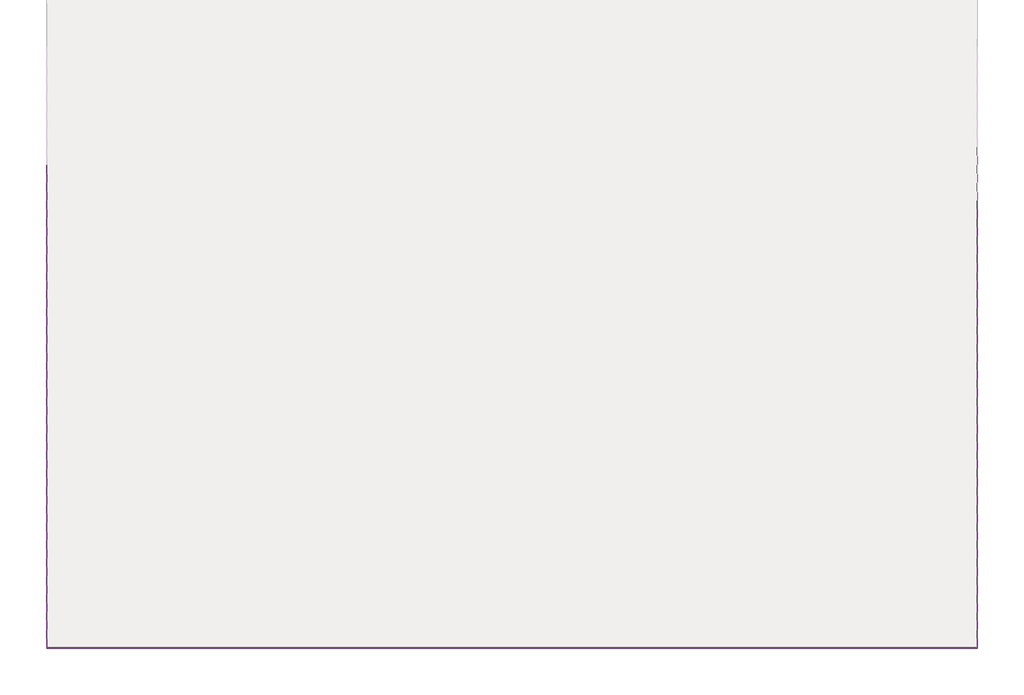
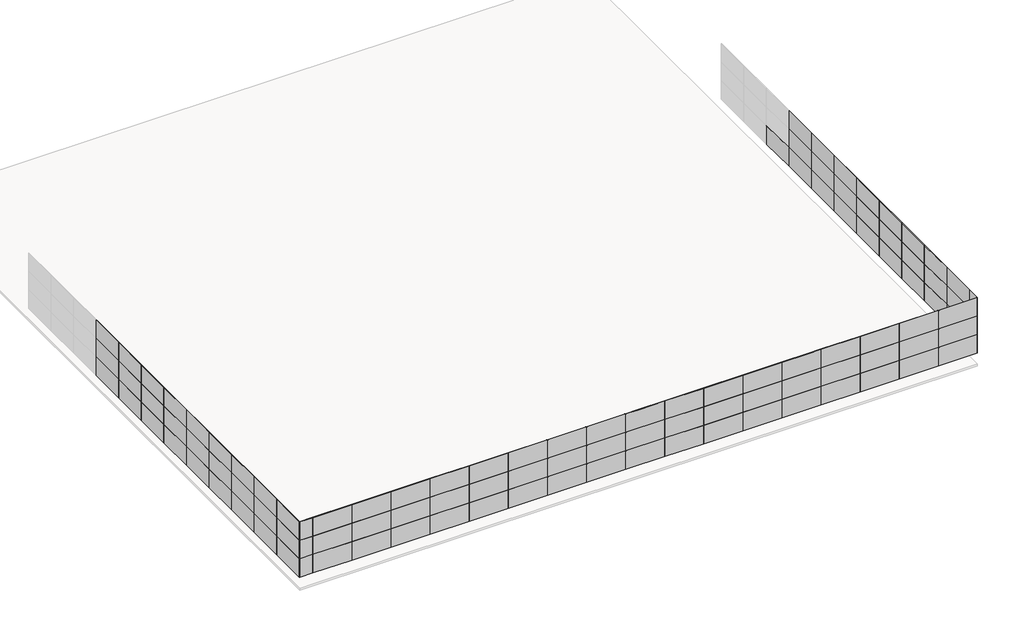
# One storey, part 1 of 2: 109 plates.
"""IFC4 building model written with IfcOpenShell, lengths in millimetres."""

from ifc_helpers import new_model, si_unit, origin, place, context, project, spatial, transform, mapped, element, save
from components import plate_b491c4e8, plate_da1865bf, plate_41d8d65b, plate_87ba7e3f

model = new_model("IFC4")

# Units and contexts
model_context = context("Model", 3, world=origin())
ifc_project = project(units=[si_unit("LENGTHUNIT", "METRE", prefix="MILLI")], contexts=[model_context])

# Site, building, storey
site = spatial("IfcSite", under=ifc_project)
building = spatial("IfcBuilding", under=site)
storey = spatial("IfcBuildingStorey", under=building, Name="标高 3", Elevation=9600.0)

# Plates
placement = place(None, origin())
plate_shape = plate_b491c4e8(model_context)
element("IfcPlate", 1, ObjectType="系统嵌板 : 玻璃", at=placement, inside=storey, context=model_context, shape_type="MappedRepresentation", body=[
    mapped(plate_shape, transform((30694.7947586, -748.6313563, 10500.0), x_axis=(0.0, -1.0, 0.0), y_axis=(1.0, 0.0, 0.0), z_axis=(0.0, 0.0, 1.0))),
])
element("IfcPlate", 2, ObjectType="系统嵌板 : 玻璃", at=placement, inside=storey, context=model_context, shape_type="MappedRepresentation", body=[
    mapped(plate_shape, transform((30694.7947586, -3748.6313563, 10500.0), x_axis=(0.0, -1.0, 0.0), y_axis=(1.0, 0.0, 0.0), z_axis=(0.0, 0.0, 1.0))),
])
element("IfcPlate", 3, ObjectType="系统嵌板 : 玻璃", at=placement, inside=storey, context=model_context, shape_type="MappedRepresentation", body=[
    mapped(plate_shape, transform((30694.7947586, -6748.6313563, 10500.0), x_axis=(0.0, -1.0, 0.0), y_axis=(1.0, 0.0, 0.0), z_axis=(0.0, 0.0, 1.0))),
])
element("IfcPlate", 4, ObjectType="系统嵌板 : 玻璃", at=placement, inside=storey, context=model_context, shape_type="MappedRepresentation", body=[
    mapped(plate_shape, transform((30694.7947586, -9748.6313563, 10500.0), x_axis=(0.0, -1.0, 0.0), y_axis=(1.0, 0.0, 0.0), z_axis=(0.0, 0.0, 1.0))),
])
element("IfcPlate", 5, ObjectType="系统嵌板 : 玻璃", at=placement, inside=storey, context=model_context, shape_type="MappedRepresentation", body=[
    mapped(plate_shape, transform((30694.7947586, -12748.6313563, 10500.0), x_axis=(0.0, -1.0, 0.0), y_axis=(1.0, 0.0, 0.0), z_axis=(0.0, 0.0, 1.0))),
])
element("IfcPlate", 6, ObjectType="系统嵌板 : 玻璃", at=placement, inside=storey, context=model_context, shape_type="MappedRepresentation", body=[
    mapped(plate_shape, transform((30694.7947586, -15748.6313563, 10500.0), x_axis=(0.0, -1.0, 0.0), y_axis=(1.0, 0.0, 0.0), z_axis=(0.0, 0.0, 1.0))),
])
element("IfcPlate", 7, ObjectType="系统嵌板 : 玻璃", at=placement, inside=storey, context=model_context, shape_type="MappedRepresentation", body=[
    mapped(plate_shape, transform((30694.7947586, -18748.6313563, 10500.0), x_axis=(0.0, -1.0, 0.0), y_axis=(1.0, 0.0, 0.0), z_axis=(0.0, 0.0, 1.0))),
])
element("IfcPlate", 8, ObjectType="系统嵌板 : 玻璃", at=placement, inside=storey, context=model_context, shape_type="MappedRepresentation", body=[
    mapped(plate_shape, transform((30694.7947586, -21748.6313563, 10500.0), x_axis=(0.0, -1.0, 0.0), y_axis=(1.0, 0.0, 0.0), z_axis=(0.0, 0.0, 1.0))),
])
element("IfcPlate", 9, ObjectType="系统嵌板 : 玻璃", at=placement, inside=storey, context=model_context, shape_type="MappedRepresentation", body=[
    mapped(plate_shape, transform((30694.7947586, -24748.6313563, 10500.0), x_axis=(0.0, -1.0, 0.0), y_axis=(1.0, 0.0, 0.0), z_axis=(0.0, 0.0, 1.0))),
])
element("IfcPlate", 10, ObjectType="系统嵌板 : 玻璃", at=placement, inside=storey, context=model_context, shape_type="MappedRepresentation", body=[
    mapped(plate_shape, transform((30694.7947586, -3748.6313563, 12000.0), x_axis=(0.0, -1.0, 0.0), y_axis=(1.0, 0.0, 0.0), z_axis=(0.0, 0.0, 1.0))),
])
element("IfcPlate", 11, ObjectType="系统嵌板 : 玻璃", at=placement, inside=storey, context=model_context, shape_type="MappedRepresentation", body=[
    mapped(plate_shape, transform((30694.7947586, -6748.6313563, 12000.0), x_axis=(0.0, -1.0, 0.0), y_axis=(1.0, 0.0, 0.0), z_axis=(0.0, 0.0, 1.0))),
])
element("IfcPlate", 12, ObjectType="系统嵌板 : 玻璃", at=placement, inside=storey, context=model_context, shape_type="MappedRepresentation", body=[
    mapped(plate_shape, transform((30694.7947586, -9748.6313563, 12000.0), x_axis=(0.0, -1.0, 0.0), y_axis=(1.0, 0.0, 0.0), z_axis=(0.0, 0.0, 1.0))),
])
element("IfcPlate", 13, ObjectType="系统嵌板 : 玻璃", at=placement, inside=storey, context=model_context, shape_type="MappedRepresentation", body=[
    mapped(plate_shape, transform((30694.7947586, -12748.6313563, 12000.0), x_axis=(0.0, -1.0, 0.0), y_axis=(1.0, 0.0, 0.0), z_axis=(0.0, 0.0, 1.0))),
])
element("IfcPlate", 14, ObjectType="系统嵌板 : 玻璃", at=placement, inside=storey, context=model_context, shape_type="MappedRepresentation", body=[
    mapped(plate_shape, transform((30694.7947586, -15748.6313563, 12000.0), x_axis=(0.0, -1.0, 0.0), y_axis=(1.0, 0.0, 0.0), z_axis=(0.0, 0.0, 1.0))),
])
element("IfcPlate", 15, ObjectType="系统嵌板 : 玻璃", at=placement, inside=storey, context=model_context, shape_type="MappedRepresentation", body=[
    mapped(plate_shape, transform((30694.7947586, -18748.6313563, 12000.0), x_axis=(0.0, -1.0, 0.0), y_axis=(1.0, 0.0, 0.0), z_axis=(0.0, 0.0, 1.0))),
])
element("IfcPlate", 16, ObjectType="系统嵌板 : 玻璃", at=placement, inside=storey, context=model_context, shape_type="MappedRepresentation", body=[
    mapped(plate_shape, transform((30694.7947586, -21748.6313563, 12000.0), x_axis=(0.0, -1.0, 0.0), y_axis=(1.0, 0.0, 0.0), z_axis=(0.0, 0.0, 1.0))),
])
element("IfcPlate", 17, ObjectType="系统嵌板 : 玻璃", at=placement, inside=storey, context=model_context, shape_type="MappedRepresentation", body=[
    mapped(plate_shape, transform((30694.7947586, -24748.6313563, 12000.0), x_axis=(0.0, -1.0, 0.0), y_axis=(1.0, 0.0, 0.0), z_axis=(0.0, 0.0, 1.0))),
])
element("IfcPlate", 18, ObjectType="系统嵌板 : 玻璃", at=placement, inside=storey, context=model_context, shape_type="MappedRepresentation", body=[
    mapped(plate_shape, transform((30694.7947586, -3748.6313563, 13500.0), x_axis=(0.0, -1.0, 0.0), y_axis=(1.0, 0.0, 0.0), z_axis=(0.0, 0.0, 1.0))),
])
element("IfcPlate", 19, ObjectType="系统嵌板 : 玻璃", at=placement, inside=storey, context=model_context, shape_type="MappedRepresentation", body=[
    mapped(plate_shape, transform((30694.7947586, -6748.6313563, 13500.0), x_axis=(0.0, -1.0, 0.0), y_axis=(1.0, 0.0, 0.0), z_axis=(0.0, 0.0, 1.0))),
])
element("IfcPlate", 20, ObjectType="系统嵌板 : 玻璃", at=placement, inside=storey, context=model_context, shape_type="MappedRepresentation", body=[
    mapped(plate_shape, transform((30694.7947586, -9748.6313563, 13500.0), x_axis=(0.0, -1.0, 0.0), y_axis=(1.0, 0.0, 0.0), z_axis=(0.0, 0.0, 1.0))),
])
element("IfcPlate", 21, ObjectType="系统嵌板 : 玻璃", at=placement, inside=storey, context=model_context, shape_type="MappedRepresentation", body=[
    mapped(plate_shape, transform((30694.7947586, -12748.6313563, 13500.0), x_axis=(0.0, -1.0, 0.0), y_axis=(1.0, 0.0, 0.0), z_axis=(0.0, 0.0, 1.0))),
])
element("IfcPlate", 22, ObjectType="系统嵌板 : 玻璃", at=placement, inside=storey, context=model_context, shape_type="MappedRepresentation", body=[
    mapped(plate_shape, transform((30694.7947586, -15748.6313563, 13500.0), x_axis=(0.0, -1.0, 0.0), y_axis=(1.0, 0.0, 0.0), z_axis=(0.0, 0.0, 1.0))),
])
element("IfcPlate", 23, ObjectType="系统嵌板 : 玻璃", at=placement, inside=storey, context=model_context, shape_type="MappedRepresentation", body=[
    mapped(plate_shape, transform((30694.7947586, -18748.6313563, 13500.0), x_axis=(0.0, -1.0, 0.0), y_axis=(1.0, 0.0, 0.0), z_axis=(0.0, 0.0, 1.0))),
])
element("IfcPlate", 24, ObjectType="系统嵌板 : 玻璃", at=placement, inside=storey, context=model_context, shape_type="MappedRepresentation", body=[
    mapped(plate_shape, transform((30694.7947586, -21748.6313563, 13500.0), x_axis=(0.0, -1.0, 0.0), y_axis=(1.0, 0.0, 0.0), z_axis=(0.0, 0.0, 1.0))),
])
element("IfcPlate", 25, ObjectType="系统嵌板 : 玻璃", at=placement, inside=storey, context=model_context, shape_type="MappedRepresentation", body=[
    mapped(plate_shape, transform((30694.7947586, -24748.6313563, 13500.0), x_axis=(0.0, -1.0, 0.0), y_axis=(1.0, 0.0, 0.0), z_axis=(0.0, 0.0, 1.0))),
])
element("IfcPlate", 26, ObjectType="系统嵌板 : 玻璃", at=placement, inside=storey, context=model_context, shape_type="MappedRepresentation", body=[
    mapped(plate_shape, transform((-21305.2052414, -25748.6313563, 10500.0), x_axis=(0.0, 1.0, 0.0), y_axis=(-1.0, 0.0, 0.0), z_axis=(0.0, 0.0, 1.0))),
])
element("IfcPlate", 27, ObjectType="系统嵌板 : 玻璃", at=placement, inside=storey, context=model_context, shape_type="MappedRepresentation", body=[
    mapped(plate_shape, transform((-21305.2052414, -22748.6313563, 10500.0), x_axis=(0.0, 1.0, 0.0), y_axis=(-1.0, 0.0, 0.0), z_axis=(0.0, 0.0, 1.0))),
])
element("IfcPlate", 28, ObjectType="系统嵌板 : 玻璃", at=placement, inside=storey, context=model_context, shape_type="MappedRepresentation", body=[
    mapped(plate_shape, transform((-21305.2052414, -19748.6313563, 10500.0), x_axis=(0.0, 1.0, 0.0), y_axis=(-1.0, 0.0, 0.0), z_axis=(0.0, 0.0, 1.0))),
])
element("IfcPlate", 29, ObjectType="系统嵌板 : 玻璃", at=placement, inside=storey, context=model_context, shape_type="MappedRepresentation", body=[
    mapped(plate_shape, transform((-21305.2052414, -16748.6313563, 10500.0), x_axis=(0.0, 1.0, 0.0), y_axis=(-1.0, 0.0, 0.0), z_axis=(0.0, 0.0, 1.0))),
])
element("IfcPlate", 30, ObjectType="系统嵌板 : 玻璃", at=placement, inside=storey, context=model_context, shape_type="MappedRepresentation", body=[
    mapped(plate_shape, transform((-21305.2052414, -13748.6313563, 10500.0), x_axis=(0.0, 1.0, 0.0), y_axis=(-1.0, 0.0, 0.0), z_axis=(0.0, 0.0, 1.0))),
])
element("IfcPlate", 31, ObjectType="系统嵌板 : 玻璃", at=placement, inside=storey, context=model_context, shape_type="MappedRepresentation", body=[
    mapped(plate_shape, transform((-21305.2052414, -10748.6313563, 10500.0), x_axis=(0.0, 1.0, 0.0), y_axis=(-1.0, 0.0, 0.0), z_axis=(0.0, 0.0, 1.0))),
])
element("IfcPlate", 32, ObjectType="系统嵌板 : 玻璃", at=placement, inside=storey, context=model_context, shape_type="MappedRepresentation", body=[
    mapped(plate_shape, transform((-21305.2052414, -7748.6313563, 10500.0), x_axis=(0.0, 1.0, 0.0), y_axis=(-1.0, 0.0, 0.0), z_axis=(0.0, 0.0, 1.0))),
])
element("IfcPlate", 33, ObjectType="系统嵌板 : 玻璃", at=placement, inside=storey, context=model_context, shape_type="MappedRepresentation", body=[
    mapped(plate_shape, transform((-21305.2052414, -4748.6313563, 10500.0), x_axis=(0.0, 1.0, 0.0), y_axis=(-1.0, 0.0, 0.0), z_axis=(0.0, 0.0, 1.0))),
])
element("IfcPlate", 34, ObjectType="系统嵌板 : 玻璃", at=placement, inside=storey, context=model_context, shape_type="MappedRepresentation", body=[
    mapped(plate_shape, transform((-21305.2052414, -1748.6313563, 10500.0), x_axis=(0.0, 1.0, 0.0), y_axis=(-1.0, 0.0, 0.0), z_axis=(0.0, 0.0, 1.0))),
])
element("IfcPlate", 35, ObjectType="系统嵌板 : 玻璃", at=placement, inside=storey, context=model_context, shape_type="MappedRepresentation", body=[
    mapped(plate_shape, transform((-21305.2052414, -25748.6313563, 12000.0), x_axis=(0.0, 1.0, 0.0), y_axis=(-1.0, 0.0, 0.0), z_axis=(0.0, 0.0, 1.0))),
])
element("IfcPlate", 36, ObjectType="系统嵌板 : 玻璃", at=placement, inside=storey, context=model_context, shape_type="MappedRepresentation", body=[
    mapped(plate_shape, transform((-21305.2052414, -22748.6313563, 12000.0), x_axis=(0.0, 1.0, 0.0), y_axis=(-1.0, 0.0, 0.0), z_axis=(0.0, 0.0, 1.0))),
])
element("IfcPlate", 37, ObjectType="系统嵌板 : 玻璃", at=placement, inside=storey, context=model_context, shape_type="MappedRepresentation", body=[
    mapped(plate_shape, transform((-21305.2052414, -19748.6313563, 12000.0), x_axis=(0.0, 1.0, 0.0), y_axis=(-1.0, 0.0, 0.0), z_axis=(0.0, 0.0, 1.0))),
])
element("IfcPlate", 38, ObjectType="系统嵌板 : 玻璃", at=placement, inside=storey, context=model_context, shape_type="MappedRepresentation", body=[
    mapped(plate_shape, transform((-21305.2052414, -16748.6313563, 12000.0), x_axis=(0.0, 1.0, 0.0), y_axis=(-1.0, 0.0, 0.0), z_axis=(0.0, 0.0, 1.0))),
])
element("IfcPlate", 39, ObjectType="系统嵌板 : 玻璃", at=placement, inside=storey, context=model_context, shape_type="MappedRepresentation", body=[
    mapped(plate_shape, transform((-21305.2052414, -13748.6313563, 12000.0), x_axis=(0.0, 1.0, 0.0), y_axis=(-1.0, 0.0, 0.0), z_axis=(0.0, 0.0, 1.0))),
])
element("IfcPlate", 40, ObjectType="系统嵌板 : 玻璃", at=placement, inside=storey, context=model_context, shape_type="MappedRepresentation", body=[
    mapped(plate_shape, transform((-21305.2052414, -10748.6313563, 12000.0), x_axis=(0.0, 1.0, 0.0), y_axis=(-1.0, 0.0, 0.0), z_axis=(0.0, 0.0, 1.0))),
])
element("IfcPlate", 41, ObjectType="系统嵌板 : 玻璃", at=placement, inside=storey, context=model_context, shape_type="MappedRepresentation", body=[
    mapped(plate_shape, transform((-21305.2052414, -7748.6313563, 12000.0), x_axis=(0.0, 1.0, 0.0), y_axis=(-1.0, 0.0, 0.0), z_axis=(0.0, 0.0, 1.0))),
])
element("IfcPlate", 42, ObjectType="系统嵌板 : 玻璃", at=placement, inside=storey, context=model_context, shape_type="MappedRepresentation", body=[
    mapped(plate_shape, transform((-21305.2052414, -4748.6313563, 12000.0), x_axis=(0.0, 1.0, 0.0), y_axis=(-1.0, 0.0, 0.0), z_axis=(0.0, 0.0, 1.0))),
])
element("IfcPlate", 43, ObjectType="系统嵌板 : 玻璃", at=placement, inside=storey, context=model_context, shape_type="MappedRepresentation", body=[
    mapped(plate_shape, transform((-21305.2052414, -1748.6313563, 12000.0), x_axis=(0.0, 1.0, 0.0), y_axis=(-1.0, 0.0, 0.0), z_axis=(0.0, 0.0, 1.0))),
])
element("IfcPlate", 44, ObjectType="系统嵌板 : 玻璃", at=placement, inside=storey, context=model_context, shape_type="MappedRepresentation", body=[
    mapped(plate_shape, transform((-21305.2052414, -25748.6313563, 13500.0), x_axis=(0.0, 1.0, 0.0), y_axis=(-1.0, 0.0, 0.0), z_axis=(0.0, 0.0, 1.0))),
])
element("IfcPlate", 45, ObjectType="系统嵌板 : 玻璃", at=placement, inside=storey, context=model_context, shape_type="MappedRepresentation", body=[
    mapped(plate_shape, transform((-21305.2052414, -22748.6313563, 13500.0), x_axis=(0.0, 1.0, 0.0), y_axis=(-1.0, 0.0, 0.0), z_axis=(0.0, 0.0, 1.0))),
])
element("IfcPlate", 46, ObjectType="系统嵌板 : 玻璃", at=placement, inside=storey, context=model_context, shape_type="MappedRepresentation", body=[
    mapped(plate_shape, transform((-21305.2052414, -19748.6313563, 13500.0), x_axis=(0.0, 1.0, 0.0), y_axis=(-1.0, 0.0, 0.0), z_axis=(0.0, 0.0, 1.0))),
])
element("IfcPlate", 47, ObjectType="系统嵌板 : 玻璃", at=placement, inside=storey, context=model_context, shape_type="MappedRepresentation", body=[
    mapped(plate_shape, transform((-21305.2052414, -16748.6313563, 13500.0), x_axis=(0.0, 1.0, 0.0), y_axis=(-1.0, 0.0, 0.0), z_axis=(0.0, 0.0, 1.0))),
])
element("IfcPlate", 48, ObjectType="系统嵌板 : 玻璃", at=placement, inside=storey, context=model_context, shape_type="MappedRepresentation", body=[
    mapped(plate_shape, transform((-21305.2052414, -10748.6313563, 13500.0), x_axis=(0.0, 1.0, 0.0), y_axis=(-1.0, 0.0, 0.0), z_axis=(0.0, 0.0, 1.0))),
])
element("IfcPlate", 49, ObjectType="系统嵌板 : 玻璃", at=placement, inside=storey, context=model_context, shape_type="MappedRepresentation", body=[
    mapped(plate_shape, transform((-21305.2052414, -7748.6313563, 13500.0), x_axis=(0.0, 1.0, 0.0), y_axis=(-1.0, 0.0, 0.0), z_axis=(0.0, 0.0, 1.0))),
])
element("IfcPlate", 50, ObjectType="系统嵌板 : 玻璃", at=placement, inside=storey, context=model_context, shape_type="MappedRepresentation", body=[
    mapped(plate_shape, transform((-21305.2052414, -4748.6313563, 13500.0), x_axis=(0.0, 1.0, 0.0), y_axis=(-1.0, 0.0, 0.0), z_axis=(0.0, 0.0, 1.0))),
])
element("IfcPlate", 51, ObjectType="系统嵌板 : 玻璃", at=placement, inside=storey, context=model_context, shape_type="MappedRepresentation", body=[
    mapped(plate_shape, transform((29194.7947586, -27248.6313563, 10500.0), x_axis=(-1.0, 0.0, 0.0), y_axis=(0.0, -1.0, 0.0), z_axis=(0.0, 0.0, 1.0))),
])
element("IfcPlate", 52, ObjectType="系统嵌板 : 玻璃", at=placement, inside=storey, context=model_context, shape_type="MappedRepresentation", body=[
    mapped(plate_shape, transform((26194.7947586, -27248.6313563, 10500.0), x_axis=(-1.0, 0.0, 0.0), y_axis=(0.0, -1.0, 0.0), z_axis=(0.0, 0.0, 1.0))),
])
element("IfcPlate", 53, ObjectType="系统嵌板 : 玻璃", at=placement, inside=storey, context=model_context, shape_type="MappedRepresentation", body=[
    mapped(plate_shape, transform((23194.7947586, -27248.6313563, 10500.0), x_axis=(-1.0, 0.0, 0.0), y_axis=(0.0, -1.0, 0.0), z_axis=(0.0, 0.0, 1.0))),
])
element("IfcPlate", 54, ObjectType="系统嵌板 : 玻璃", at=placement, inside=storey, context=model_context, shape_type="MappedRepresentation", body=[
    mapped(plate_shape, transform((20194.7947586, -27248.6313563, 10500.0), x_axis=(-1.0, 0.0, 0.0), y_axis=(0.0, -1.0, 0.0), z_axis=(0.0, 0.0, 1.0))),
])
element("IfcPlate", 55, ObjectType="系统嵌板 : 玻璃", at=placement, inside=storey, context=model_context, shape_type="MappedRepresentation", body=[
    mapped(plate_shape, transform((17194.7947586, -27248.6313563, 10500.0), x_axis=(-1.0, 0.0, 0.0), y_axis=(0.0, -1.0, 0.0), z_axis=(0.0, 0.0, 1.0))),
])
element("IfcPlate", 56, ObjectType="系统嵌板 : 玻璃", at=placement, inside=storey, context=model_context, shape_type="MappedRepresentation", body=[
    mapped(plate_shape, transform((14194.7947586, -27248.6313563, 10500.0), x_axis=(-1.0, 0.0, 0.0), y_axis=(0.0, -1.0, 0.0), z_axis=(0.0, 0.0, 1.0))),
])
element("IfcPlate", 57, ObjectType="系统嵌板 : 玻璃", at=placement, inside=storey, context=model_context, shape_type="MappedRepresentation", body=[
    mapped(plate_shape, transform((11194.7947586, -27248.6313563, 10500.0), x_axis=(-1.0, 0.0, 0.0), y_axis=(0.0, -1.0, 0.0), z_axis=(0.0, 0.0, 1.0))),
])
element("IfcPlate", 58, ObjectType="系统嵌板 : 玻璃", at=placement, inside=storey, context=model_context, shape_type="MappedRepresentation", body=[
    mapped(plate_shape, transform((8194.7947586, -27248.6313563, 10500.0), x_axis=(-1.0, 0.0, 0.0), y_axis=(0.0, -1.0, 0.0), z_axis=(0.0, 0.0, 1.0))),
])
element("IfcPlate", 59, ObjectType="系统嵌板 : 玻璃", at=placement, inside=storey, context=model_context, shape_type="MappedRepresentation", body=[
    mapped(plate_shape, transform((5194.7947586, -27248.6313563, 10500.0), x_axis=(-1.0, 0.0, 0.0), y_axis=(0.0, -1.0, 0.0), z_axis=(0.0, 0.0, 1.0))),
])
element("IfcPlate", 60, ObjectType="系统嵌板 : 玻璃", at=placement, inside=storey, context=model_context, shape_type="MappedRepresentation", body=[
    mapped(plate_shape, transform((2194.7947586, -27248.6313563, 10500.0), x_axis=(-1.0, 0.0, 0.0), y_axis=(0.0, -1.0, 0.0), z_axis=(0.0, 0.0, 1.0))),
])
element("IfcPlate", 61, ObjectType="系统嵌板 : 玻璃", at=placement, inside=storey, context=model_context, shape_type="MappedRepresentation", body=[
    mapped(plate_shape, transform((-805.2052414, -27248.6313563, 10500.0), x_axis=(-1.0, 0.0, 0.0), y_axis=(0.0, -1.0, 0.0), z_axis=(0.0, 0.0, 1.0))),
])
element("IfcPlate", 62, ObjectType="系统嵌板 : 玻璃", at=placement, inside=storey, context=model_context, shape_type="MappedRepresentation", body=[
    mapped(plate_shape, transform((-3805.2052414, -27248.6313563, 10500.0), x_axis=(-1.0, 0.0, 0.0), y_axis=(0.0, -1.0, 0.0), z_axis=(0.0, 0.0, 1.0))),
])
element("IfcPlate", 63, ObjectType="系统嵌板 : 玻璃", at=placement, inside=storey, context=model_context, shape_type="MappedRepresentation", body=[
    mapped(plate_shape, transform((-6805.2052414, -27248.6313563, 10500.0), x_axis=(-1.0, 0.0, 0.0), y_axis=(0.0, -1.0, 0.0), z_axis=(0.0, 0.0, 1.0))),
])
element("IfcPlate", 64, ObjectType="系统嵌板 : 玻璃", at=placement, inside=storey, context=model_context, shape_type="MappedRepresentation", body=[
    mapped(plate_shape, transform((-9805.2052414, -27248.6313563, 10500.0), x_axis=(-1.0, 0.0, 0.0), y_axis=(0.0, -1.0, 0.0), z_axis=(0.0, 0.0, 1.0))),
])
element("IfcPlate", 65, ObjectType="系统嵌板 : 玻璃", at=placement, inside=storey, context=model_context, shape_type="MappedRepresentation", body=[
    mapped(plate_shape, transform((-12805.2052414, -27248.6313563, 10500.0), x_axis=(-1.0, 0.0, 0.0), y_axis=(0.0, -1.0, 0.0), z_axis=(0.0, 0.0, 1.0))),
])
element("IfcPlate", 66, ObjectType="系统嵌板 : 玻璃", at=placement, inside=storey, context=model_context, shape_type="MappedRepresentation", body=[
    mapped(plate_shape, transform((-15805.2052414, -27248.6313563, 10500.0), x_axis=(-1.0, 0.0, 0.0), y_axis=(0.0, -1.0, 0.0), z_axis=(0.0, 0.0, 1.0))),
])
element("IfcPlate", 67, ObjectType="系统嵌板 : 玻璃", at=placement, inside=storey, context=model_context, shape_type="MappedRepresentation", body=[
    mapped(plate_shape, transform((-18805.2052414, -27248.6313563, 10500.0), x_axis=(-1.0, 0.0, 0.0), y_axis=(0.0, -1.0, 0.0), z_axis=(0.0, 0.0, 1.0))),
])
element("IfcPlate", 68, ObjectType="系统嵌板 : 玻璃", at=placement, inside=storey, context=model_context, shape_type="MappedRepresentation", body=[
    mapped(plate_shape, transform((29194.7947586, -27248.6313563, 12000.0), x_axis=(-1.0, 0.0, 0.0), y_axis=(0.0, -1.0, 0.0), z_axis=(0.0, 0.0, 1.0))),
])
element("IfcPlate", 69, ObjectType="系统嵌板 : 玻璃", at=placement, inside=storey, context=model_context, shape_type="MappedRepresentation", body=[
    mapped(plate_shape, transform((26194.7947586, -27248.6313563, 12000.0), x_axis=(-1.0, 0.0, 0.0), y_axis=(0.0, -1.0, 0.0), z_axis=(0.0, 0.0, 1.0))),
])
element("IfcPlate", 70, ObjectType="系统嵌板 : 玻璃", at=placement, inside=storey, context=model_context, shape_type="MappedRepresentation", body=[
    mapped(plate_shape, transform((23194.7947586, -27248.6313563, 12000.0), x_axis=(-1.0, 0.0, 0.0), y_axis=(0.0, -1.0, 0.0), z_axis=(0.0, 0.0, 1.0))),
])
element("IfcPlate", 71, ObjectType="系统嵌板 : 玻璃", at=placement, inside=storey, context=model_context, shape_type="MappedRepresentation", body=[
    mapped(plate_shape, transform((20194.7947586, -27248.6313563, 12000.0), x_axis=(-1.0, 0.0, 0.0), y_axis=(0.0, -1.0, 0.0), z_axis=(0.0, 0.0, 1.0))),
])
element("IfcPlate", 72, ObjectType="系统嵌板 : 玻璃", at=placement, inside=storey, context=model_context, shape_type="MappedRepresentation", body=[
    mapped(plate_shape, transform((17194.7947586, -27248.6313563, 12000.0), x_axis=(-1.0, 0.0, 0.0), y_axis=(0.0, -1.0, 0.0), z_axis=(0.0, 0.0, 1.0))),
])
element("IfcPlate", 73, ObjectType="系统嵌板 : 玻璃", at=placement, inside=storey, context=model_context, shape_type="MappedRepresentation", body=[
    mapped(plate_shape, transform((14194.7947586, -27248.6313563, 12000.0), x_axis=(-1.0, 0.0, 0.0), y_axis=(0.0, -1.0, 0.0), z_axis=(0.0, 0.0, 1.0))),
])
element("IfcPlate", 74, ObjectType="系统嵌板 : 玻璃", at=placement, inside=storey, context=model_context, shape_type="MappedRepresentation", body=[
    mapped(plate_shape, transform((11194.7947586, -27248.6313563, 12000.0), x_axis=(-1.0, 0.0, 0.0), y_axis=(0.0, -1.0, 0.0), z_axis=(0.0, 0.0, 1.0))),
])
element("IfcPlate", 75, ObjectType="系统嵌板 : 玻璃", at=placement, inside=storey, context=model_context, shape_type="MappedRepresentation", body=[
    mapped(plate_shape, transform((8194.7947586, -27248.6313563, 12000.0), x_axis=(-1.0, 0.0, 0.0), y_axis=(0.0, -1.0, 0.0), z_axis=(0.0, 0.0, 1.0))),
])
element("IfcPlate", 76, ObjectType="系统嵌板 : 玻璃", at=placement, inside=storey, context=model_context, shape_type="MappedRepresentation", body=[
    mapped(plate_shape, transform((5194.7947586, -27248.6313563, 12000.0), x_axis=(-1.0, 0.0, 0.0), y_axis=(0.0, -1.0, 0.0), z_axis=(0.0, 0.0, 1.0))),
])
element("IfcPlate", 77, ObjectType="系统嵌板 : 玻璃", at=placement, inside=storey, context=model_context, shape_type="MappedRepresentation", body=[
    mapped(plate_shape, transform((2194.7947586, -27248.6313563, 12000.0), x_axis=(-1.0, 0.0, 0.0), y_axis=(0.0, -1.0, 0.0), z_axis=(0.0, 0.0, 1.0))),
])
element("IfcPlate", 78, ObjectType="系统嵌板 : 玻璃", at=placement, inside=storey, context=model_context, shape_type="MappedRepresentation", body=[
    mapped(plate_shape, transform((-805.2052414, -27248.6313563, 12000.0), x_axis=(-1.0, 0.0, 0.0), y_axis=(0.0, -1.0, 0.0), z_axis=(0.0, 0.0, 1.0))),
])
element("IfcPlate", 79, ObjectType="系统嵌板 : 玻璃", at=placement, inside=storey, context=model_context, shape_type="MappedRepresentation", body=[
    mapped(plate_shape, transform((-3805.2052414, -27248.6313563, 12000.0), x_axis=(-1.0, 0.0, 0.0), y_axis=(0.0, -1.0, 0.0), z_axis=(0.0, 0.0, 1.0))),
])
element("IfcPlate", 80, ObjectType="系统嵌板 : 玻璃", at=placement, inside=storey, context=model_context, shape_type="MappedRepresentation", body=[
    mapped(plate_shape, transform((-6805.2052414, -27248.6313563, 12000.0), x_axis=(-1.0, 0.0, 0.0), y_axis=(0.0, -1.0, 0.0), z_axis=(0.0, 0.0, 1.0))),
])
element("IfcPlate", 81, ObjectType="系统嵌板 : 玻璃", at=placement, inside=storey, context=model_context, shape_type="MappedRepresentation", body=[
    mapped(plate_shape, transform((-9805.2052414, -27248.6313563, 12000.0), x_axis=(-1.0, 0.0, 0.0), y_axis=(0.0, -1.0, 0.0), z_axis=(0.0, 0.0, 1.0))),
])
element("IfcPlate", 82, ObjectType="系统嵌板 : 玻璃", at=placement, inside=storey, context=model_context, shape_type="MappedRepresentation", body=[
    mapped(plate_shape, transform((-12805.2052414, -27248.6313563, 12000.0), x_axis=(-1.0, 0.0, 0.0), y_axis=(0.0, -1.0, 0.0), z_axis=(0.0, 0.0, 1.0))),
])
element("IfcPlate", 83, ObjectType="系统嵌板 : 玻璃", at=placement, inside=storey, context=model_context, shape_type="MappedRepresentation", body=[
    mapped(plate_shape, transform((-15805.2052414, -27248.6313563, 12000.0), x_axis=(-1.0, 0.0, 0.0), y_axis=(0.0, -1.0, 0.0), z_axis=(0.0, 0.0, 1.0))),
])
element("IfcPlate", 84, ObjectType="系统嵌板 : 玻璃", at=placement, inside=storey, context=model_context, shape_type="MappedRepresentation", body=[
    mapped(plate_shape, transform((-18805.2052414, -27248.6313563, 12000.0), x_axis=(-1.0, 0.0, 0.0), y_axis=(0.0, -1.0, 0.0), z_axis=(0.0, 0.0, 1.0))),
])
element("IfcPlate", 85, ObjectType="系统嵌板 : 玻璃", at=placement, inside=storey, context=model_context, shape_type="MappedRepresentation", body=[
    mapped(plate_shape, transform((29194.7947586, -27248.6313563, 13500.0), x_axis=(-1.0, 0.0, 0.0), y_axis=(0.0, -1.0, 0.0), z_axis=(0.0, 0.0, 1.0))),
])
element("IfcPlate", 86, ObjectType="系统嵌板 : 玻璃", at=placement, inside=storey, context=model_context, shape_type="MappedRepresentation", body=[
    mapped(plate_shape, transform((26194.7947586, -27248.6313563, 13500.0), x_axis=(-1.0, 0.0, 0.0), y_axis=(0.0, -1.0, 0.0), z_axis=(0.0, 0.0, 1.0))),
])
element("IfcPlate", 87, ObjectType="系统嵌板 : 玻璃", at=placement, inside=storey, context=model_context, shape_type="MappedRepresentation", body=[
    mapped(plate_shape, transform((23194.7947586, -27248.6313563, 13500.0), x_axis=(-1.0, 0.0, 0.0), y_axis=(0.0, -1.0, 0.0), z_axis=(0.0, 0.0, 1.0))),
])
element("IfcPlate", 88, ObjectType="系统嵌板 : 玻璃", at=placement, inside=storey, context=model_context, shape_type="MappedRepresentation", body=[
    mapped(plate_shape, transform((20194.7947586, -27248.6313563, 13500.0), x_axis=(-1.0, 0.0, 0.0), y_axis=(0.0, -1.0, 0.0), z_axis=(0.0, 0.0, 1.0))),
])
element("IfcPlate", 89, ObjectType="系统嵌板 : 玻璃", at=placement, inside=storey, context=model_context, shape_type="MappedRepresentation", body=[
    mapped(plate_shape, transform((14194.7947586, -27248.6313563, 13500.0), x_axis=(-1.0, 0.0, 0.0), y_axis=(0.0, -1.0, 0.0), z_axis=(0.0, 0.0, 1.0))),
])
element("IfcPlate", 90, ObjectType="系统嵌板 : 玻璃", at=placement, inside=storey, context=model_context, shape_type="MappedRepresentation", body=[
    mapped(plate_shape, transform((11194.7947586, -27248.6313563, 13500.0), x_axis=(-1.0, 0.0, 0.0), y_axis=(0.0, -1.0, 0.0), z_axis=(0.0, 0.0, 1.0))),
])
element("IfcPlate", 91, ObjectType="系统嵌板 : 玻璃", at=placement, inside=storey, context=model_context, shape_type="MappedRepresentation", body=[
    mapped(plate_shape, transform((8194.7947586, -27248.6313563, 13500.0), x_axis=(-1.0, 0.0, 0.0), y_axis=(0.0, -1.0, 0.0), z_axis=(0.0, 0.0, 1.0))),
])
element("IfcPlate", 92, ObjectType="系统嵌板 : 玻璃", at=placement, inside=storey, context=model_context, shape_type="MappedRepresentation", body=[
    mapped(plate_shape, transform((2194.7947586, -27248.6313563, 13500.0), x_axis=(-1.0, 0.0, 0.0), y_axis=(0.0, -1.0, 0.0), z_axis=(0.0, 0.0, 1.0))),
])
element("IfcPlate", 93, ObjectType="系统嵌板 : 玻璃", at=placement, inside=storey, context=model_context, shape_type="MappedRepresentation", body=[
    mapped(plate_shape, transform((-805.2052414, -27248.6313563, 13500.0), x_axis=(-1.0, 0.0, 0.0), y_axis=(0.0, -1.0, 0.0), z_axis=(0.0, 0.0, 1.0))),
])
element("IfcPlate", 94, ObjectType="系统嵌板 : 玻璃", at=placement, inside=storey, context=model_context, shape_type="MappedRepresentation", body=[
    mapped(plate_shape, transform((-3805.2052414, -27248.6313563, 13500.0), x_axis=(-1.0, 0.0, 0.0), y_axis=(0.0, -1.0, 0.0), z_axis=(0.0, 0.0, 1.0))),
])
element("IfcPlate", 95, ObjectType="系统嵌板 : 玻璃", at=placement, inside=storey, context=model_context, shape_type="MappedRepresentation", body=[
    mapped(plate_shape, transform((-6805.2052414, -27248.6313563, 13500.0), x_axis=(-1.0, 0.0, 0.0), y_axis=(0.0, -1.0, 0.0), z_axis=(0.0, 0.0, 1.0))),
])
element("IfcPlate", 96, ObjectType="系统嵌板 : 玻璃", at=placement, inside=storey, context=model_context, shape_type="MappedRepresentation", body=[
    mapped(plate_shape, transform((-9805.2052414, -27248.6313563, 13500.0), x_axis=(-1.0, 0.0, 0.0), y_axis=(0.0, -1.0, 0.0), z_axis=(0.0, 0.0, 1.0))),
])
element("IfcPlate", 97, ObjectType="系统嵌板 : 玻璃", at=placement, inside=storey, context=model_context, shape_type="MappedRepresentation", body=[
    mapped(plate_shape, transform((-12805.2052414, -27248.6313563, 13500.0), x_axis=(-1.0, 0.0, 0.0), y_axis=(0.0, -1.0, 0.0), z_axis=(0.0, 0.0, 1.0))),
])
element("IfcPlate", 98, ObjectType="系统嵌板 : 玻璃", at=placement, inside=storey, context=model_context, shape_type="MappedRepresentation", body=[
    mapped(plate_shape, transform((-15805.2052414, -27248.6313563, 13500.0), x_axis=(-1.0, 0.0, 0.0), y_axis=(0.0, -1.0, 0.0), z_axis=(0.0, 0.0, 1.0))),
])
element("IfcPlate", 99, ObjectType="系统嵌板 : 玻璃", at=placement, inside=storey, context=model_context, shape_type="MappedRepresentation", body=[
    mapped(plate_shape, transform((-18805.2052414, -27248.6313563, 13500.0), x_axis=(-1.0, 0.0, 0.0), y_axis=(0.0, -1.0, 0.0), z_axis=(0.0, 0.0, 1.0))),
])
plate_2_shape = plate_da1865bf(model_context)
element("IfcPlate", 100, ObjectType="系统嵌板 : 玻璃", at=placement, inside=storey, context=model_context, shape_type="MappedRepresentation", body=[
    mapped(plate_2_shape, transform((30694.7947586, -26748.6313563, 10500.0), x_axis=(0.0, -1.0, 0.0), y_axis=(1.0, 0.0, 0.0), z_axis=(0.0, 0.0, 1.0))),
])
element("IfcPlate", 101, ObjectType="系统嵌板 : 玻璃", at=placement, inside=storey, context=model_context, shape_type="MappedRepresentation", body=[
    mapped(plate_2_shape, transform((30694.7947586, -26748.6313563, 12000.0), x_axis=(0.0, -1.0, 0.0), y_axis=(1.0, 0.0, 0.0), z_axis=(0.0, 0.0, 1.0))),
])
element("IfcPlate", 102, ObjectType="系统嵌板 : 玻璃", at=placement, inside=storey, context=model_context, shape_type="MappedRepresentation", body=[
    mapped(plate_2_shape, transform((30694.7947586, -26748.6313563, 13500.0), x_axis=(0.0, -1.0, 0.0), y_axis=(1.0, 0.0, 0.0), z_axis=(0.0, 0.0, 1.0))),
])
element("IfcPlate", 103, ObjectType="系统嵌板 : 玻璃", at=placement, inside=storey, context=model_context, shape_type="MappedRepresentation", body=[
    mapped(plate_2_shape, transform((-20805.2052414, -27248.6313563, 10500.0), x_axis=(-1.0, 0.0, 0.0), y_axis=(0.0, -1.0, 0.0), z_axis=(0.0, 0.0, 1.0))),
])
element("IfcPlate", 104, ObjectType="系统嵌板 : 玻璃", at=placement, inside=storey, context=model_context, shape_type="MappedRepresentation", body=[
    mapped(plate_2_shape, transform((-20805.2052414, -27248.6313563, 12000.0), x_axis=(-1.0, 0.0, 0.0), y_axis=(0.0, -1.0, 0.0), z_axis=(0.0, 0.0, 1.0))),
])
element("IfcPlate", 105, ObjectType="系统嵌板 : 玻璃", at=placement, inside=storey, context=model_context, shape_type="MappedRepresentation", body=[
    mapped(plate_2_shape, transform((-20805.2052414, -27248.6313563, 13500.0), x_axis=(-1.0, 0.0, 0.0), y_axis=(0.0, -1.0, 0.0), z_axis=(0.0, 0.0, 1.0))),
])
plate_3_shape = plate_41d8d65b(model_context)
element("IfcPlate", 106, ObjectType="系统嵌板 : 玻璃", at=placement, inside=storey, context=model_context, shape_type="MappedRepresentation", body=[
    mapped(plate_3_shape, transform((-21305.2052414, -13748.6313563, 13500.0), x_axis=(0.0, 1.0, 0.0), y_axis=(-1.0, 0.0, 0.0), z_axis=(0.0, 0.0, 1.0))),
])
element("IfcPlate", 107, ObjectType="系统嵌板 : 玻璃", at=placement, inside=storey, context=model_context, shape_type="MappedRepresentation", body=[
    mapped(plate_3_shape, transform((17194.7947586, -27248.6313563, 13500.0), x_axis=(-1.0, 0.0, 0.0), y_axis=(0.0, -1.0, 0.0), z_axis=(0.0, 0.0, 1.0))),
])
plate_4_shape = plate_87ba7e3f(model_context)
element("IfcPlate", 108, ObjectType="系统嵌板 : 玻璃", at=placement, inside=storey, context=model_context, shape_type="MappedRepresentation", body=[
    mapped(plate_4_shape, transform((-21305.2052414, -1748.6313563, 13500.0), x_axis=(0.0, 1.0, 0.0), y_axis=(-1.0, 0.0, 0.0), z_axis=(0.0, 0.0, 1.0))),
])
element("IfcPlate", 109, ObjectType="系统嵌板 : 玻璃", at=placement, inside=storey, context=model_context, shape_type="MappedRepresentation", body=[
    mapped(plate_4_shape, transform((5194.7947586, -27248.6313563, 13500.0), x_axis=(-1.0, 0.0, 0.0), y_axis=(0.0, -1.0, 0.0), z_axis=(0.0, 0.0, 1.0))),
])

save(model, "model.ifc")
